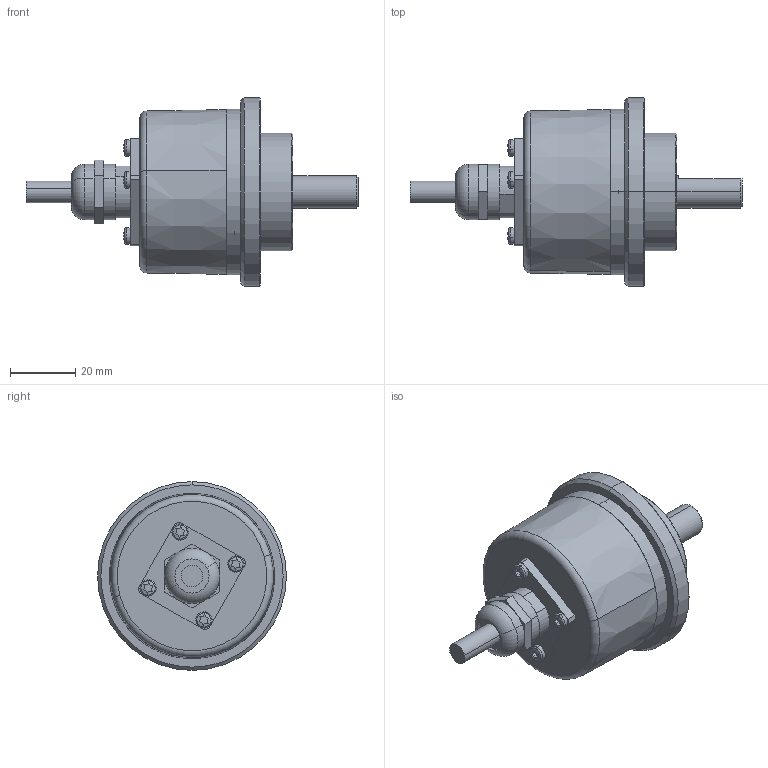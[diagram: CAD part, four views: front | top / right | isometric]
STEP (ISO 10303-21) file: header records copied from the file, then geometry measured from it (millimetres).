
FILE_DESCRIPTION (( 'STEP AP214' ), '1' );
FILE_NAME ('5000.83X1.XXXX.STEP', '2008-06-19T06:00:16', ( 'admin' ), ( 'Fritz Kübler GmbH' ), 'SwSTEP 2.0', 'SolidWorks 2007', '' );
FILE_SCHEMA (( 'AUTOMOTIVE_DESIGN' ));
Length unit declared in the file: millimetre
Products named in the file (1): 5000.83X1.XXXX
Bounding box: 102 x 58 x 58 mm (x, y, z)
Surface area: 17186.8 mm2 (no closed solid volume)
Topology: 0 solids, 12 shells, 175 faces, 453 edges, 291 vertices
Faces by surface type: plane 92, cylinder 38, torus 20, cone 17, sphere 8
Entity records: 7320 total; most frequent: DIRECTION 1034, CARTESIAN_POINT 950, ORIENTED_EDGE 820, EDGE_CURVE 451, AXIS2_PLACEMENT_3D 411, VERTEX_POINT 291, CIRCLE 235, VECTOR 212
